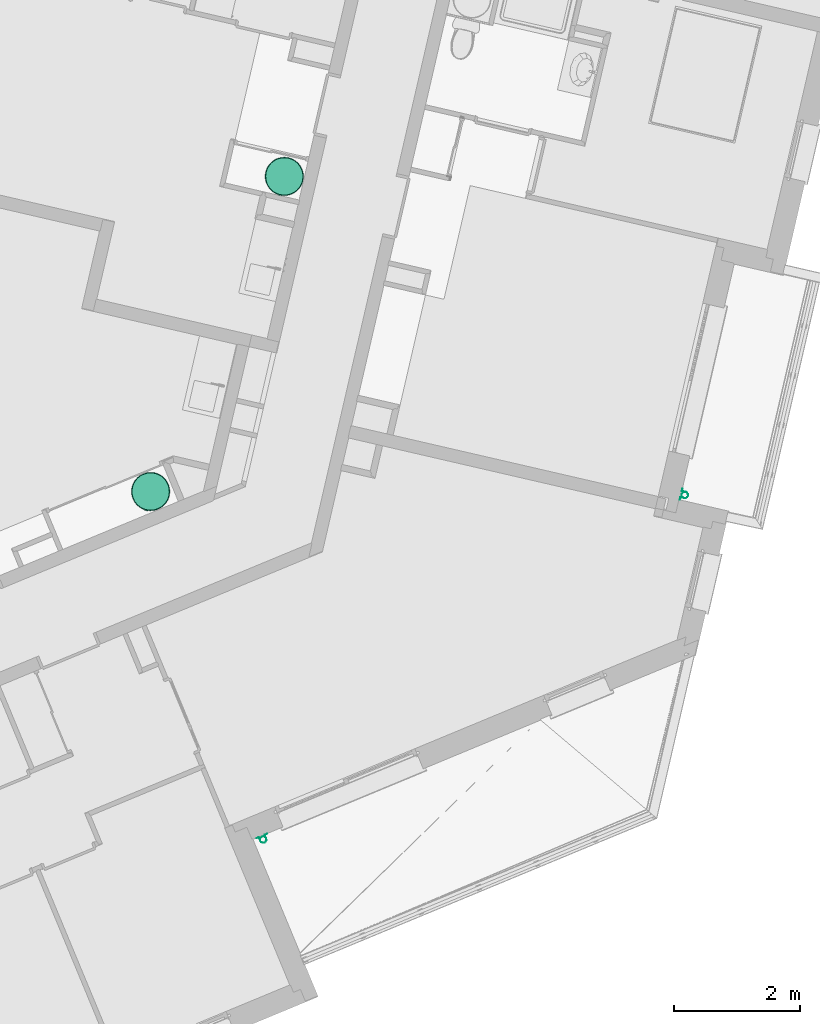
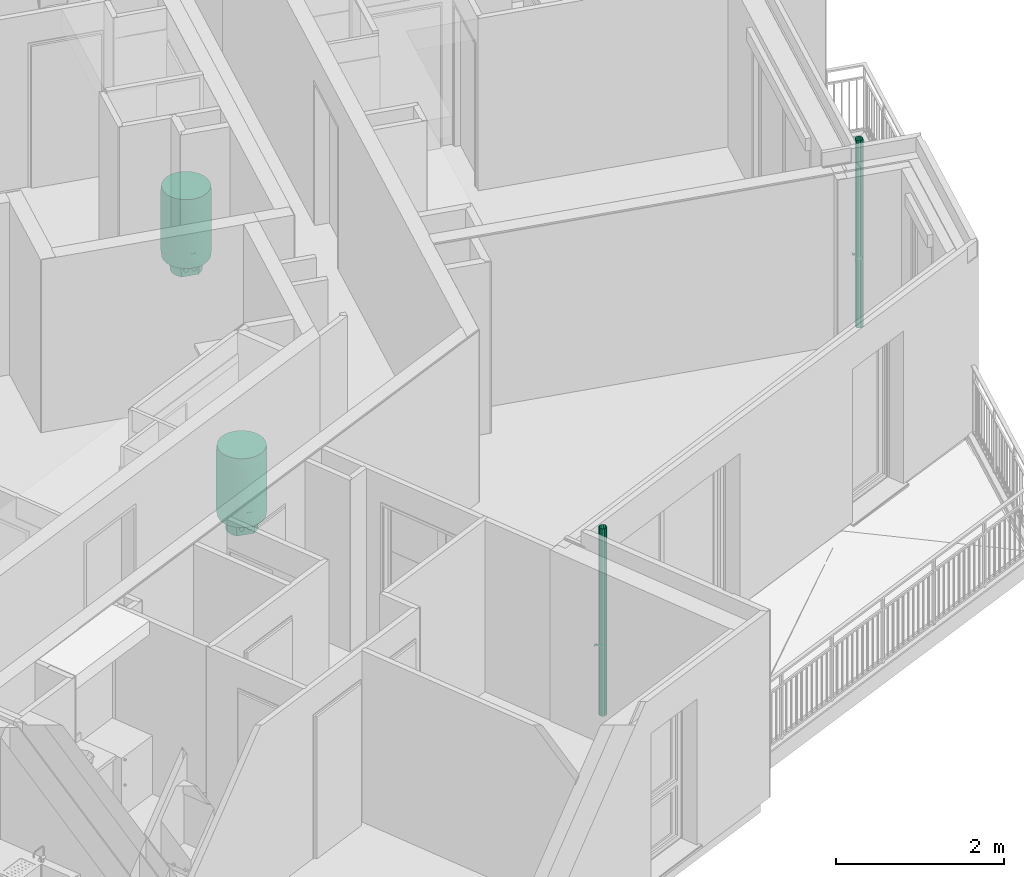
# One storey, part 72 of 90: 2 energy conversion devices, 2 flow terminals.
"""IFC2X3 building model written with IfcOpenShell, lengths in metres."""

import ifcopenshell
import ifcopenshell.guid

model = None  # the IFC model being written
_history = None  # IfcOwnerHistory: only IFC2X3 demands one
_inside = {}  # id of a spatial element -> (the spatial element, [elements in it])
_under = {}  # id of a project, library or spatial element -> (it, [spatial elements below it])
_declared = {}  # id of a project -> (the project, [libraries it declares])
_typed = {}  # id of a type object -> (the type object, [elements of that type])
_made_of = {}  # id of a material, layer set ... -> (it, [elements and type objects made of it])


def new_model(schema):
    """Start an empty IFC model of exactly this schema.

    Asked for "IFC4X3", IfcOpenShell would pick the latest addendum, in which some entities
    have other attributes; the version numbers below select the first issue.
    IFC2X3 requires an IfcOwnerHistory on every rooted entity: one is made here for all.
    """
    global model, _history
    if schema == "IFC4X3":
        model = ifcopenshell.file(schema_version=(4, 3, 0, 0))
    else:
        model = ifcopenshell.file(schema=schema)
    _inside.clear()
    _under.clear()
    _declared.clear()
    _typed.clear()
    _made_of.clear()
    _history = None
    if model.schema == "IFC2X3":
        org = make("IfcOrganization", Name="unknown")
        user = make(
            "IfcPersonAndOrganization",
            ThePerson=make("IfcPerson", FamilyName="unknown"),
            TheOrganization=org,
        )
        app = make(
            "IfcApplication",
            ApplicationDeveloper=org,
            Version="unknown",
            ApplicationFullName="unknown",
            ApplicationIdentifier="unknown",
        )
        _history = make(
            "IfcOwnerHistory",
            OwningUser=user,
            OwningApplication=app,
            ChangeAction="ADDED",
            CreationDate=0,
        )
    return model


def make(cls, **values):
    """One entity of the class cls with the attributes given. An attribute that is None is left unset."""
    return model.create_entity(
        cls, **{name: value for name, value in values.items() if value is not None}
    )


def entity(cls, *values):
    """Any entity or typed value of the class cls, its attributes in the order of the schema. None: left unset."""
    e = model.create_entity(cls)
    for i, value in enumerate(values):
        if value is not None:
            e[i] = value
    return e


def rooted(cls, **values):
    """An entity with a GlobalId (a new one), such as an element, a storey or a relation."""
    return make(cls, GlobalId=ifcopenshell.guid.new(), OwnerHistory=_history, **values)


def si_unit(unit_type, name, prefix=None):
    """IfcSIUnit, for example si_unit("LENGTHUNIT", "METRE", prefix="MILLI")."""
    return make("IfcSIUnit", UnitType=unit_type, Prefix=prefix, Name=name)


def converted_unit(unit_type, name, factor, base, dimensions=None, offset=None):
    """IfcConversionBasedUnit, such as the inch: factor (a typed value) times the base unit."""
    return make(
        "IfcConversionBasedUnit"
        if offset is None
        else "IfcConversionBasedUnitWithOffset",
        ConversionOffset=offset,
        Dimensions=None
        if dimensions is None
        else entity("IfcDimensionalExponents", *dimensions),
        UnitType=unit_type,
        Name=name,
        ConversionFactor=make(
            "IfcMeasureWithUnit", ValueComponent=factor, UnitComponent=base
        ),
    )


def derived_unit(unit_type, elements):
    """IfcDerivedUnit: a product of units, each with its exponent."""
    return make(
        "IfcDerivedUnit",
        Elements=[
            make("IfcDerivedUnitElement", Unit=unit, Exponent=power)
            for unit, power in elements
        ],
        UnitType=unit_type,
    )


def money_unit(currency):
    """IfcMonetaryUnit."""
    return make("IfcMonetaryUnit", Currency=currency)


def assignment(units):
    """IfcUnitAssignment: the units of a project."""
    return None if units is None else make("IfcUnitAssignment", Units=units)


def point(xyz):
    """IfcCartesianPoint."""
    return None if xyz is None else make("IfcCartesianPoint", Coordinates=xyz)


def direction(xyz):
    """IfcDirection."""
    return None if xyz is None else make("IfcDirection", DirectionRatios=xyz)


def frame(location, z_axis=None, x_axis=None):
    """IfcAxis2Placement3D, a coordinate frame: its origin and axes. An axis left out is left unset."""
    return make(
        "IfcAxis2Placement3D",
        Location=point(location),
        Axis=direction(z_axis),
        RefDirection=direction(x_axis),
    )


def origin_with_axes():
    """The frame at (0, 0, 0) with the z axis (0, 0, 1) and the x axis (1, 0, 0) written out."""
    return frame((0.0, 0.0, 0.0), z_axis=(0.0, 0.0, 1.0), x_axis=(1.0, 0.0, 0.0))


def place(relative_to, where):
    """IfcLocalPlacement: puts the frame where relative to a parent placement (None: the world)."""
    return make(
        "IfcLocalPlacement", PlacementRelTo=relative_to, RelativePlacement=where
    )


def context(
    kind, dimensions, precision=None, world=None, true_north=None, identifier=None
):
    """IfcGeometricRepresentationContext, for example the 3D "Model" context."""
    return make(
        "IfcGeometricRepresentationContext",
        ContextIdentifier=identifier,
        ContextType=kind,
        CoordinateSpaceDimension=dimensions,
        Precision=precision,
        WorldCoordinateSystem=world,
        TrueNorth=true_north,
    )


def subcontext(parent, identifier, kind, view, scale=None):
    """IfcGeometricRepresentationSubContext, for example "Body" below "Model"."""
    return make(
        "IfcGeometricRepresentationSubContext",
        ContextIdentifier=identifier,
        ContextType=kind,
        ParentContext=parent,
        TargetScale=scale,
        TargetView=view,
    )


def project(units=None, contexts=None):
    """IfcProject with its units and contexts."""
    return rooted(
        "IfcProject",
        Name="project",
        RepresentationContexts=contexts,
        UnitsInContext=assignment(units),
    )


def spatial(cls, under=None, at=None, **own):
    """A site, building, storey or space (cls), placed at a placement, below another one or the project."""
    s = rooted(cls, ObjectPlacement=at, **own)
    if under is not None:
        _under.setdefault(under.id(), (under, []))[1].append(s)
    return s


def faces_of(points, faces, orient=None, outer=None):
    """IfcFace entities. A face is a list of loops; a loop is a list of indices into points, from 0.

    orient and outer hold one flag for each loop. By default every Orientation is true, the
    first loop of a face is its IfcFaceOuterBound and the others are IfcFaceBound.
    """
    made = []
    for i, loops in enumerate(faces):
        bounds = []
        for j, loop in enumerate(loops):
            is_outer = j == 0 if outer is None else outer[i][j]
            bounds.append(
                make(
                    "IfcFaceOuterBound" if is_outer else "IfcFaceBound",
                    Bound=make("IfcPolyLoop", Polygon=[points[k] for k in loop]),
                    Orientation=True if orient is None else orient[i][j],
                )
            )
        made.append(make("IfcFace", Bounds=bounds))
    return made


def open_shell(faces, orient=None, outer=None):
    """The faces of one IfcOpenShell. surface_model builds it on its shared points."""
    return ("IfcOpenShell", faces, orient, outer)


def faceted_brep(points, faces, orient=None, outer=None, voids=None):
    """IfcFacetedBrep: a solid bounded by flat faces; with voids (closed shells), ...WithVoids."""
    shared = [point(p) for p in points]
    hull = make("IfcClosedShell", CfsFaces=faces_of(shared, faces, orient, outer))
    if voids is None:
        return make("IfcFacetedBrep", Outer=hull)
    return make(
        "IfcFacetedBrepWithVoids",
        Outer=hull,
        Voids=[
            make(cls, CfsFaces=faces_of(shared, fs, o, b)) for cls, fs, o, b in voids
        ],
    )


def surface_model(cls, points, shells):
    """IfcFaceBasedSurfaceModel or IfcShellBasedSurfaceModel (cls): surfaces that need not close."""
    shared = [point(p) for p in points]
    made = [make(c, CfsFaces=faces_of(shared, fs, o, b)) for c, fs, o, b in shells]
    if cls == "IfcFaceBasedSurfaceModel":
        return make(cls, FbsmFaces=made)
    return make(cls, SbsmBoundary=made)


def shape(context_of_items, identifier, shape_type, items):
    """IfcShapeRepresentation: the items that make up one representation, for example the "Body"."""
    return make(
        "IfcShapeRepresentation",
        ContextOfItems=context_of_items,
        RepresentationIdentifier=identifier,
        RepresentationType=shape_type,
        Items=items,
    )


def source(mapping_origin, context_of_items, identifier, shape_type, items):
    """IfcRepresentationMap: a shape defined once, which mapped items show again and again."""
    return make(
        "IfcRepresentationMap",
        MappingOrigin=mapping_origin,
        MappedRepresentation=shape(context_of_items, identifier, shape_type, items),
    )


def transform(
    local_origin,
    x_axis=None,
    y_axis=None,
    z_axis=None,
    scale=None,
    scale2=None,
    scale3=None,
    uniform=True,
):
    """IfcCartesianTransformationOperator3D, or its non-uniform kind. x_axis, y_axis, z_axis: its Axis1, 2, 3."""
    if uniform:
        return make(
            "IfcCartesianTransformationOperator3D",
            Axis1=direction(x_axis),
            Axis2=direction(y_axis),
            LocalOrigin=point(local_origin),
            Scale=scale,
            Axis3=direction(z_axis),
        )
    return make(
        "IfcCartesianTransformationOperator3DnonUniform",
        Axis1=direction(x_axis),
        Axis2=direction(y_axis),
        LocalOrigin=point(local_origin),
        Scale=scale,
        Axis3=direction(z_axis),
        Scale2=scale2,
        Scale3=scale3,
    )


def mapped(mapping_source, mapping_target):
    """IfcMappedItem: shows the shape of a source again, moved by a transform."""
    return make(
        "IfcMappedItem", MappingSource=mapping_source, MappingTarget=mapping_target
    )


def made_of(thing, what):
    """Note that an element or type object is made of a material, layer set ...; save() writes the relation."""
    if what is not None:
        _made_of.setdefault(what.id(), (what, []))[1].append(thing)
    return thing


def type_object(cls, material=None, **own):
    """A type object (cls), such as IfcWallType, which elements share."""
    return made_of(rooted(cls, **own), material)


def element(
    cls,
    number,
    at=None,
    inside=None,
    cuts=None,
    type_object=None,
    material=None,
    context=None,
    identifier="Body",
    shape_type=None,
    held_by="IfcProductDefinitionShape",
    body=None,
    shapes=None,
    **own,
):
    """One element of the class cls, such as IfcWall. Its Tag is "e" and its number.

    at: its placement. inside: the storey or other place that contains it. cuts: it is an
    opening in that element (IfcRelVoidsElement). A single representation is given by context,
    identifier, shape_type and body (its items); several are given by shapes. held_by: the class
    of the entity that holds the representations. save() writes the other relations.
    """
    e = rooted(cls, Tag="e%d" % number, ObjectPlacement=at, **own)
    if body is not None:
        shapes = [shape(context, identifier, shape_type, body)]
    if shapes is not None:
        e.Representation = make(held_by, Representations=shapes)
    if inside is not None:
        _inside.setdefault(inside.id(), (inside, []))[1].append(e)
    if cuts is not None:
        rooted(
            "IfcRelVoidsElement", RelatingBuildingElement=cuts, RelatedOpeningElement=e
        )
    if type_object is not None:
        _typed.setdefault(type_object.id(), (type_object, []))[1].append(e)
    return made_of(e, material)


def aggregate(whole, parts):
    """IfcRelAggregates: a whole, such as a stair, and the parts it consists of."""
    return rooted("IfcRelAggregates", RelatingObject=whole, RelatedObjects=parts)


def save(model, path):
    """Write the relations noted so far, then the file.

    IfcRelAggregates (storeys below a building ...), IfcRelContainedInSpatialStructure (elements
    in a storey), IfcRelDefinesByType, IfcRelAssociatesMaterial and IfcRelDeclares: one each for
    every whole, place, type object, material and project.
    """
    for whole, parts in _under.values():
        aggregate(whole, parts)
    for where, things in _inside.values():
        rooted(
            "IfcRelContainedInSpatialStructure",
            RelatedElements=things,
            RelatingStructure=where,
        )
    for kind, things in _typed.values():
        rooted("IfcRelDefinesByType", RelatedObjects=things, RelatingType=kind)
    for what, things in _made_of.values():
        rooted("IfcRelAssociatesMaterial", RelatedObjects=things, RelatingMaterial=what)
    for by, libraries in _declared.values():
        rooted("IfcRelDeclares", RelatingContext=by, RelatedDefinitions=libraries)
    model.write(path)


model = new_model("IFC2X3")

# Units and contexts
model_context = context("Model", 3, precision=1e-05, world=origin_with_axes(), true_north=direction((0.0, 1.0)))
body_context = subcontext(model_context, "Body", "Model", "MODEL_VIEW")
ifc_project = project(units=[si_unit("LENGTHUNIT", "METRE"), si_unit("AREAUNIT", "SQUARE_METRE"), si_unit("VOLUMEUNIT", "CUBIC_METRE"), converted_unit("PLANEANGLEUNIT", "DEGREE", entity("IfcPlaneAngleMeasure", 0.0174532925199), si_unit("PLANEANGLEUNIT", "RADIAN"), dimensions=[0, 0, 0, 0, 0, 0, 0]), si_unit("SOLIDANGLEUNIT", "STERADIAN"), money_unit("EUR"), converted_unit("TIMEUNIT", "Year", entity("IfcTimeMeasure", 31556926.0), si_unit("TIMEUNIT", "SECOND"), dimensions=[0, 0, 1, 0, 0, 0, 0]), si_unit("MASSUNIT", "GRAM", prefix="KILO"), si_unit("THERMODYNAMICTEMPERATUREUNIT", "DEGREE_CELSIUS"), si_unit("LUMINOUSINTENSITYUNIT", "LUMEN"), si_unit("ENERGYUNIT", "JOULE", prefix="MEGA"), derived_unit("THERMALCONDUCTANCEUNIT", [(si_unit("POWERUNIT", "WATT"), 1), (si_unit("LENGTHUNIT", "METRE"), -1), (si_unit("THERMODYNAMICTEMPERATUREUNIT", "KELVIN"), -1)]), derived_unit("SPECIFICHEATCAPACITYUNIT", [(si_unit("ENERGYUNIT", "JOULE"), 1), (si_unit("MASSUNIT", "GRAM", prefix="KILO"), -1), (si_unit("THERMODYNAMICTEMPERATUREUNIT", "KELVIN"), -1)]), derived_unit("MASSDENSITYUNIT", [(si_unit("MASSUNIT", "GRAM", prefix="KILO"), 1), (si_unit("VOLUMEUNIT", "CUBIC_METRE"), -1)])], contexts=[model_context])

# Site, building, storey
site_placement = place(None, origin_with_axes())
site = spatial("IfcSite", under=ifc_project, at=site_placement, Name="Site", CompositionType="ELEMENT")
building_placement = place(site_placement, origin_with_axes())
building = spatial("IfcBuilding", under=site, at=building_placement, Name="Bâtiment", CompositionType="ELEMENT")
storey_placement = place(building_placement, frame((0.0, 0.0, 2.72), z_axis=(0.0, 0.0, 1.0), x_axis=(1.0, 0.0, 0.0)))
storey = spatial("IfcBuildingStorey", under=building, at=storey_placement, Name="R+1", CompositionType="ELEMENT", Elevation=2.72)

# Flow terminals
waste_terminal_type = type_object("IfcWasteTerminalType", Name="Tuyau descente 23", PredefinedType="GULLYTRAP")
shared_shape_1 = source(origin_with_axes(), body_context, "Body", "SurfaceModel", [
    surface_model("IfcShellBasedSurfaceModel", [(0.05, -0.0125, 2.7222918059), (0.0433012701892, -0.0375, 2.7222918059), (0.0433012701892, -0.0375, 0.0), (0.05, -0.0125, 0.0), (0.025, -0.0558012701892, 2.7222918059), (0.025, -0.0558012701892, 0.0), (0.0433012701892, 0.0125, 2.7222918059), (0.0433012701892, 0.0125, 0.0), (0.0, -0.0625, 2.7222918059), (0.0, -0.0625, 0.0), (0.025, 0.0308012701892, 2.7222918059), (0.025, 0.0308012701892, 0.0), (-0.025, -0.0558012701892, 2.7222918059), (-0.025, -0.0558012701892, 0.0), (0.0, 0.0375, 2.7222918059), (0.0, 0.0375, 0.0), (-0.0433012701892, -0.0375, 2.7222918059), (-0.0433012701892, -0.0375, 0.0), (-0.025, 0.0308012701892, 2.7222918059), (-0.025, 0.0308012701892, 0.0), (-0.05, -0.0125, 2.7222918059), (-0.05, -0.0125, 0.0), (-0.0433012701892, 0.0125, 2.7222918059), (-0.0433012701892, 0.0125, 0.0)], [open_shell([[[0, 1, 2, 3]], [[1, 4, 5, 2]], [[6, 0, 3, 7]], [[4, 8, 9, 5]], [[10, 6, 7, 11]], [[8, 12, 13, 9]], [[14, 10, 11, 15]], [[12, 16, 17, 13]], [[18, 14, 15, 19]], [[16, 20, 21, 17]], [[22, 18, 19, 23]], [[20, 22, 23, 21]]])]),
    faceted_brep([(-0.09, 0.0479, 1.0), (-0.052, 0.0479, 1.0), (-0.052, 0.0479, 1.03), (-0.09, 0.0479, 1.03), (-0.09, 0.0499, 1.0), (-0.0502, 0.0499, 1.0), (-0.0502, -0.0126, 1.0), (-0.04347447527, -0.0377, 1.0), (-0.0251, -0.05607447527, 1.0), (0.0, -0.0628, 1.0), (0.0251, -0.05607447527, 1.0), (0.04347447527, -0.0377, 1.0), (0.0502, -0.0126, 1.0), (0.0502, 0.0499, 1.0), (0.09, 0.0499, 1.0), (0.09, 0.0479, 1.0), (0.052, 0.0479, 1.0), (0.052, -0.0126, 1.0), (0.0450333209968, -0.0386, 1.0), (0.026, -0.0576333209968, 1.0), (0.0, -0.0646, 1.0), (-0.026, -0.0576333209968, 1.0), (-0.0450333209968, -0.0386, 1.0), (-0.052, -0.0126, 1.0), (-0.052, -0.0126, 1.03), (-0.0450333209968, -0.0386, 1.03), (-0.026, -0.0576333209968, 1.03), (0.0, -0.0646, 1.03), (0.026, -0.0576333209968, 1.03), (0.0450333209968, -0.0386, 1.03), (0.052, -0.0126, 1.03), (0.052, 0.0479, 1.03), (0.09, 0.0479, 1.03), (0.09, 0.0499, 1.03), (0.0502, 0.0499, 1.03), (0.0502, -0.0126, 1.03), (0.04347447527, -0.0377, 1.03), (0.0251, -0.05607447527, 1.03), (0.0, -0.0628, 1.03), (-0.0251, -0.05607447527, 1.03), (-0.04347447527, -0.0377, 1.03), (-0.0502, -0.0126, 1.03), (-0.0502, 0.0499, 1.03), (-0.09, 0.0499, 1.03)], [[[0, 1, 2, 3]], [[0, 4, 5, 6, 7, 8, 9, 10, 11, 12, 13, 14, 15, 16, 17, 18, 19, 20, 21, 22, 23, 1]], [[1, 23, 24, 2]], [[3, 2, 24, 25, 26, 27, 28, 29, 30, 31, 32, 33, 34, 35, 36, 37, 38, 39, 40, 41, 42, 43]], [[4, 0, 3, 43]], [[5, 4, 43, 42]], [[6, 5, 42, 41]], [[7, 6, 41, 40]], [[8, 7, 40, 39]], [[9, 8, 39, 38]], [[10, 9, 38, 37]], [[11, 10, 37, 36]], [[12, 11, 36, 35]], [[13, 12, 35, 34]], [[14, 13, 34, 33]], [[15, 14, 33, 32]], [[16, 15, 32, 31]], [[17, 16, 31, 30]], [[18, 17, 30, 29]], [[19, 18, 29, 28]], [[20, 19, 28, 27]], [[21, 20, 27, 26]], [[22, 21, 26, 25]], [[23, 22, 25, 24]]]),
])
for number, where, z_axis, x_axis, name in (
    (1, (-7.80740943, -17.577922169, 0.0), (0.0, 0.0, 1.0), (0.224876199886, 0.97438734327, 0.0), "MOB-006"),
    (2, (-14.4677643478, -23.0167914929, 0.0), (0.0, 0.0, 1.0), (0.923701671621, 0.383112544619, 0.0), "MOB-006"),
):
    element("IfcFlowTerminal", number, at=place(storey_placement, frame(where, z_axis=z_axis, x_axis=x_axis)), inside=storey, type_object=waste_terminal_type, Name=name, context=body_context, shape_type="MappedRepresentation", body=[
        mapped(shared_shape_1, transform((0.0, 0.0, 0.0))),
    ])

# Energy conversion devices
heat_exchanger_type = type_object("IfcHeatExchangerType", Name="Chauffe-eau électrique 23", PredefinedType="SHELLANDTUBE")
shared_shape_2 = source(origin_with_axes(), body_context, "Body", "Brep", [
    faceted_brep([(-0.0254166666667, -0.310083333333, 0.4), (-0.0254166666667, -0.305, 0.4), (0.0254166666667, -0.305, 0.4), (0.0254166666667, -0.310083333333, 0.4), (-0.0254166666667, -0.310083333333, 0.42), (-0.0254166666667, -0.305, 0.42), (0.0254166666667, -0.305, 0.42), (0.0254166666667, -0.310083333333, 0.42)], [[[0, 1, 2, 3]], [[0, 4, 5, 1]], [[1, 5, 6, 2]], [[2, 6, 7, 3]], [[3, 7, 4, 0]], [[7, 6, 5, 4]]]),
    faceted_brep([(0.0226550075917, -0.162666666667, 0.0883281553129), (0.0203333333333, -0.162666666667, 0.1), (0.0226550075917, -0.162666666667, 0.111671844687), (0.0292665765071, -0.162666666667, 0.121566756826), (0.0391614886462, -0.162666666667, 0.128178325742), (0.0508333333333, -0.162666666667, 0.1305), (0.0625051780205, -0.162666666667, 0.128178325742), (0.0724000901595, -0.162666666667, 0.121566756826), (0.0790116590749, -0.162666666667, 0.111671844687), (0.0813333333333, -0.162666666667, 0.1), (0.0790116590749, -0.162666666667, 0.0883281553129), (0.0724000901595, -0.162666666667, 0.0784332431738), (0.0625051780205, -0.162666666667, 0.0718216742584), (0.0508333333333, -0.162666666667, 0.0695), (0.0391614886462, -0.162666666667, 0.0718216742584), (0.0292665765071, -0.162666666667, 0.0784332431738), (0.0226550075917, -0.177916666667, 0.0883281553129), (0.0203333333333, -0.177916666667, 0.1), (0.0226550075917, -0.177916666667, 0.111671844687), (0.0292665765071, -0.177916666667, 0.121566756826), (0.0391614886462, -0.177916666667, 0.128178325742), (0.0508333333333, -0.177916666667, 0.1305), (0.0625051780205, -0.177916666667, 0.128178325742), (0.0724000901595, -0.177916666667, 0.121566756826), (0.0790116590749, -0.177916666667, 0.111671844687), (0.0813333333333, -0.177916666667, 0.1), (0.0790116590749, -0.177916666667, 0.0883281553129), (0.0724000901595, -0.177916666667, 0.0784332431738), (0.0625051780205, -0.177916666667, 0.0718216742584), (0.0508333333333, -0.177916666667, 0.0695), (0.0391614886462, -0.177916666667, 0.0718216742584), (0.0292665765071, -0.177916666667, 0.0784332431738)], [[[0, 1, 2, 3, 4, 5, 6, 7, 8, 9, 10, 11, 12, 13, 14, 15]], [[0, 16, 17, 1]], [[1, 17, 18, 2]], [[2, 18, 19, 3]], [[3, 19, 20, 4]], [[4, 20, 21, 5]], [[5, 21, 22, 6]], [[6, 22, 23, 7]], [[7, 23, 24, 8]], [[8, 24, 25, 9]], [[9, 25, 26, 10]], [[10, 26, 27, 11]], [[11, 27, 28, 12]], [[12, 28, 29, 13]], [[13, 29, 30, 14]], [[14, 30, 31, 15]], [[15, 31, 16, 0]], [[16, 31, 30, 29, 28, 27, 26, 25, 24, 23, 22, 21, 20, 19, 18, 17]]]),
    faceted_brep([(-0.0790116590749, -0.162666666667, 0.0883281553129), (-0.0813333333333, -0.162666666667, 0.1), (-0.0790116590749, -0.162666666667, 0.111671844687), (-0.0724000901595, -0.162666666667, 0.121566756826), (-0.0625051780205, -0.162666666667, 0.128178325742), (-0.0508333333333, -0.162666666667, 0.1305), (-0.0391614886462, -0.162666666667, 0.128178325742), (-0.0292665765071, -0.162666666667, 0.121566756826), (-0.0226550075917, -0.162666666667, 0.111671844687), (-0.0203333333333, -0.162666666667, 0.1), (-0.0226550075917, -0.162666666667, 0.0883281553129), (-0.0292665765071, -0.162666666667, 0.0784332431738), (-0.0391614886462, -0.162666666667, 0.0718216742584), (-0.0508333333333, -0.162666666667, 0.0695), (-0.0625051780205, -0.162666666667, 0.0718216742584), (-0.0724000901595, -0.162666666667, 0.0784332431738), (-0.0790116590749, -0.177916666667, 0.0883281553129), (-0.0813333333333, -0.177916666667, 0.1), (-0.0790116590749, -0.177916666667, 0.111671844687), (-0.0724000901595, -0.177916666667, 0.121566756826), (-0.0625051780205, -0.177916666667, 0.128178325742), (-0.0508333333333, -0.177916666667, 0.1305), (-0.0391614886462, -0.177916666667, 0.128178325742), (-0.0292665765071, -0.177916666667, 0.121566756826), (-0.0226550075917, -0.177916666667, 0.111671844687), (-0.0203333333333, -0.177916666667, 0.1), (-0.0226550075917, -0.177916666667, 0.0883281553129), (-0.0292665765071, -0.177916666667, 0.0784332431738), (-0.0391614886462, -0.177916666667, 0.0718216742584), (-0.0508333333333, -0.177916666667, 0.0695), (-0.0625051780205, -0.177916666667, 0.0718216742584), (-0.0724000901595, -0.177916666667, 0.0784332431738)], [[[0, 1, 2, 3, 4, 5, 6, 7, 8, 9, 10, 11, 12, 13, 14, 15]], [[0, 16, 17, 1]], [[1, 17, 18, 2]], [[2, 18, 19, 3]], [[3, 19, 20, 4]], [[4, 20, 21, 5]], [[5, 21, 22, 6]], [[6, 22, 23, 7]], [[7, 23, 24, 8]], [[8, 24, 25, 9]], [[9, 25, 26, 10]], [[10, 26, 27, 11]], [[11, 27, 28, 12]], [[12, 28, 29, 13]], [[13, 29, 30, 14]], [[14, 30, 31, 15]], [[15, 31, 16, 0]], [[16, 31, 30, 29, 28, 27, 26, 25, 24, 23, 22, 21, 20, 19, 18, 17]]]),
    faceted_brep([(-0.189455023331, -0.0376849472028, 0.0), (-0.199426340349, -0.0396683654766, 0.2), (-0.203333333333, 0.0, 0.2), (-0.193166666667, 0.0, 0.0), (-0.178462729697, -0.0739216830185, 0.0), (-0.187855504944, -0.0778122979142, 0.2), (-0.169065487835, -0.112965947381, 0.2), (-0.143778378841, -0.143778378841, 0.2), (-0.120762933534, -0.162666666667, 0.2), (0.120762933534, -0.162666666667, 0.2), (0.143778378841, -0.143778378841, 0.2), (0.169065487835, -0.112965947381, 0.2), (0.187855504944, -0.0778122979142, 0.2), (0.199426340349, -0.0396683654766, 0.2), (0.203333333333, 0.0, 0.2), (0.199426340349, 0.0396683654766, 0.2), (0.187855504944, 0.0778122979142, 0.2), (0.169065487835, 0.112965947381, 0.2), (0.143778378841, 0.143778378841, 0.2), (0.112965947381, 0.169065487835, 0.2), (0.0778122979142, 0.187855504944, 0.2), (0.0396683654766, 0.199426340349, 0.2), (0.0, 0.203333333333, 0.2), (-0.0396683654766, 0.199426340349, 0.2), (-0.0778122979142, 0.187855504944, 0.2), (-0.112965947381, 0.169065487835, 0.2), (-0.143778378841, 0.143778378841, 0.2), (-0.169065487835, 0.112965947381, 0.2), (-0.187855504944, 0.0778122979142, 0.2), (-0.199426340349, 0.0396683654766, 0.2), (-0.189455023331, 0.0376849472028, 0.0), (-0.178462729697, 0.0739216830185, 0.0), (-0.160612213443, 0.107317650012, 0.0), (-0.136589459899, 0.136589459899, 0.0), (-0.107317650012, 0.160612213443, 0.0), (-0.0739216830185, 0.178462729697, 0.0), (-0.0376849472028, 0.189455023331, 0.0), (0.0, 0.193166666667, 0.0), (0.0376849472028, 0.189455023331, 0.0), (0.0739216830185, 0.178462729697, 0.0), (0.107317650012, 0.160612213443, 0.0), (0.136589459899, 0.136589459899, 0.0), (0.160612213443, 0.107317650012, 0.0), (0.178462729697, 0.0739216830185, 0.0), (0.189455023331, 0.0376849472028, 0.0), (0.193166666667, 0.0, 0.0), (0.189455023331, -0.0376849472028, 0.0), (0.178462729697, -0.0739216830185, 0.0), (0.160612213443, -0.107317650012, 0.0), (0.136589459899, -0.136589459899, 0.0), (0.107317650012, -0.160612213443, 0.0), (0.103474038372, -0.162666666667, 0.0), (-0.103474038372, -0.162666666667, 0.0), (-0.107317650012, -0.160612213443, 0.0), (-0.136589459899, -0.136589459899, 0.0), (-0.160612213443, -0.107317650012, 0.0), (-0.108690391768, -0.162666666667, 0.0486072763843), (0.108690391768, -0.162666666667, 0.0486072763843)], [[[0, 1, 2, 3]], [[4, 5, 1, 0]], [[1, 5, 6, 7, 8, 9, 10, 11, 12, 13, 14, 15, 16, 17, 18, 19, 20, 21, 22, 23, 24, 25, 26, 27, 28, 29, 2]], [[3, 2, 29, 30]], [[0, 3, 30, 31, 32, 33, 34, 35, 36, 37, 38, 39, 40, 41, 42, 43, 44, 45, 46, 47, 48, 49, 50, 51, 52, 53, 54, 55, 4]], [[55, 6, 5, 4]], [[54, 7, 6, 55]], [[53, 56, 8, 7, 54]], [[51, 57, 9, 8, 56, 52]], [[49, 10, 9, 57, 50]], [[48, 11, 10, 49]], [[47, 12, 11, 48]], [[46, 13, 12, 47]], [[45, 14, 13, 46]], [[44, 15, 14, 45]], [[43, 16, 15, 44]], [[42, 17, 16, 43]], [[41, 18, 17, 42]], [[40, 19, 18, 41]], [[39, 20, 19, 40]], [[38, 21, 20, 39]], [[37, 22, 21, 38]], [[36, 23, 22, 37]], [[35, 24, 23, 36]], [[34, 25, 24, 35]], [[33, 26, 25, 34]], [[32, 27, 26, 33]], [[31, 28, 27, 32]], [[30, 29, 28, 31]], [[50, 57, 51]], [[52, 56, 53]]]),
    faceted_brep([(-0.289168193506, -0.0575191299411, 0.2), (-0.299139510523, -0.0595025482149, 0.3), (-0.305, 0.0, 0.3), (-0.294833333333, 0.0, 0.2), (-0.272390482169, -0.112827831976, 0.2), (-0.281783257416, -0.116718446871, 0.3), (-0.253598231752, -0.169448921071, 0.3), (-0.215667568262, -0.215667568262, 0.3), (-0.169448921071, -0.253598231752, 0.3), (-0.116718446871, -0.281783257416, 0.3), (-0.0595025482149, -0.299139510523, 0.3), (0.0, -0.305, 0.3), (0.0595025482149, -0.299139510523, 0.3), (0.116718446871, -0.281783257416, 0.3), (0.169448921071, -0.253598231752, 0.3), (0.215667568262, -0.215667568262, 0.3), (0.253598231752, -0.169448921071, 0.3), (0.281783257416, -0.116718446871, 0.3), (0.299139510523, -0.0595025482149, 0.3), (0.305, 0.0, 0.3), (0.299139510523, 0.0595025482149, 0.3), (0.281783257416, 0.116718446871, 0.3), (0.253598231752, 0.169448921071, 0.3), (0.215667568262, 0.215667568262, 0.3), (0.169448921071, 0.253598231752, 0.3), (0.116718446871, 0.281783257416, 0.3), (0.0595025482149, 0.299139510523, 0.3), (0.0, 0.305, 0.3), (-0.0595025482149, 0.299139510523, 0.3), (-0.116718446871, 0.281783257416, 0.3), (-0.169448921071, 0.253598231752, 0.3), (-0.215667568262, 0.215667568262, 0.3), (-0.253598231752, 0.169448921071, 0.3), (-0.281783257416, 0.116718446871, 0.3), (-0.299139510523, 0.0595025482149, 0.3), (-0.289168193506, 0.0575191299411, 0.2), (-0.272390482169, 0.112827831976, 0.2), (-0.245144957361, 0.163800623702, 0.2), (-0.20847864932, 0.20847864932, 0.2), (-0.163800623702, 0.245144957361, 0.2), (-0.112827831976, 0.272390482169, 0.2), (-0.0575191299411, 0.289168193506, 0.2), (0.0, 0.294833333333, 0.2), (0.0575191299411, 0.289168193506, 0.2), (0.112827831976, 0.272390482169, 0.2), (0.163800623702, 0.245144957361, 0.2), (0.20847864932, 0.20847864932, 0.2), (0.245144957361, 0.163800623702, 0.2), (0.272390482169, 0.112827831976, 0.2), (0.289168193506, 0.0575191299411, 0.2), (0.294833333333, 0.0, 0.2), (0.289168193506, -0.0575191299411, 0.2), (0.272390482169, -0.112827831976, 0.2), (0.245144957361, -0.163800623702, 0.2), (0.20847864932, -0.20847864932, 0.2), (0.163800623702, -0.245144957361, 0.2), (0.112827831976, -0.272390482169, 0.2), (0.0575191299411, -0.289168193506, 0.2), (0.0, -0.294833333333, 0.2), (-0.0575191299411, -0.289168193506, 0.2), (-0.112827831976, -0.272390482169, 0.2), (-0.163800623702, -0.245144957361, 0.2), (-0.20847864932, -0.20847864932, 0.2), (-0.245144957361, -0.163800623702, 0.2)], [[[0, 1, 2, 3]], [[4, 5, 1, 0]], [[1, 5, 6, 7, 8, 9, 10, 11, 12, 13, 14, 15, 16, 17, 18, 19, 20, 21, 22, 23, 24, 25, 26, 27, 28, 29, 30, 31, 32, 33, 34, 2]], [[3, 2, 34, 35]], [[0, 3, 35, 36, 37, 38, 39, 40, 41, 42, 43, 44, 45, 46, 47, 48, 49, 50, 51, 52, 53, 54, 55, 56, 57, 58, 59, 60, 61, 62, 63, 4]], [[63, 6, 5, 4]], [[62, 7, 6, 63]], [[61, 8, 7, 62]], [[60, 9, 8, 61]], [[59, 10, 9, 60]], [[58, 11, 10, 59]], [[57, 12, 11, 58]], [[56, 13, 12, 57]], [[55, 14, 13, 56]], [[54, 15, 14, 55]], [[53, 16, 15, 54]], [[52, 17, 16, 53]], [[51, 18, 17, 52]], [[50, 19, 18, 51]], [[49, 20, 19, 50]], [[48, 21, 20, 49]], [[47, 22, 21, 48]], [[46, 23, 22, 47]], [[45, 24, 23, 46]], [[44, 25, 24, 45]], [[43, 26, 25, 44]], [[42, 27, 26, 43]], [[41, 28, 27, 42]], [[40, 29, 28, 41]], [[39, 30, 29, 40]], [[38, 31, 30, 39]], [[37, 32, 31, 38]], [[36, 33, 32, 37]], [[35, 34, 33, 36]]]),
    faceted_brep([(-0.299139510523, -0.0595025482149, 0.3), (-0.305, 0.0, 0.3), (-0.299139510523, 0.0595025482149, 0.3), (-0.281783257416, 0.116718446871, 0.3), (-0.253598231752, 0.169448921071, 0.3), (-0.215667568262, 0.215667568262, 0.3), (-0.169448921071, 0.253598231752, 0.3), (-0.116718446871, 0.281783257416, 0.3), (-0.0595025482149, 0.299139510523, 0.3), (0.0, 0.305, 0.3), (0.0595025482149, 0.299139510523, 0.3), (0.116718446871, 0.281783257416, 0.3), (0.169448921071, 0.253598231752, 0.3), (0.215667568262, 0.215667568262, 0.3), (0.253598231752, 0.169448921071, 0.3), (0.281783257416, 0.116718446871, 0.3), (0.299139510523, 0.0595025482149, 0.3), (0.305, 0.0, 0.3), (0.299139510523, -0.0595025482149, 0.3), (0.281783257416, -0.116718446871, 0.3), (0.253598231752, -0.169448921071, 0.3), (0.215667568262, -0.215667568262, 0.3), (0.169448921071, -0.253598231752, 0.3), (0.116718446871, -0.281783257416, 0.3), (0.0595025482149, -0.299139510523, 0.3), (0.0, -0.305, 0.3), (-0.0595025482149, -0.299139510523, 0.3), (-0.116718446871, -0.281783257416, 0.3), (-0.169448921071, -0.253598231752, 0.3), (-0.215667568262, -0.215667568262, 0.3), (-0.253598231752, -0.169448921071, 0.3), (-0.281783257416, -0.116718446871, 0.3), (-0.299139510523, -0.0595025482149, 1.1), (-0.305, 0.0, 1.1), (-0.299139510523, 0.0595025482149, 1.1), (-0.281783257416, 0.116718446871, 1.1), (-0.253598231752, 0.169448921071, 1.1), (-0.215667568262, 0.215667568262, 1.1), (-0.169448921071, 0.253598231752, 1.1), (-0.116718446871, 0.281783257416, 1.1), (-0.0595025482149, 0.299139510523, 1.1), (0.0, 0.305, 1.1), (0.0595025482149, 0.299139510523, 1.1), (0.116718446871, 0.281783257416, 1.1), (0.169448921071, 0.253598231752, 1.1), (0.215667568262, 0.215667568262, 1.1), (0.253598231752, 0.169448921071, 1.1), (0.281783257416, 0.116718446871, 1.1), (0.299139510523, 0.0595025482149, 1.1), (0.305, 0.0, 1.1), (0.299139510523, -0.0595025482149, 1.1), (0.281783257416, -0.116718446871, 1.1), (0.253598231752, -0.169448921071, 1.1), (0.215667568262, -0.215667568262, 1.1), (0.169448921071, -0.253598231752, 1.1), (0.116718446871, -0.281783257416, 1.1), (0.0595025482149, -0.299139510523, 1.1), (0.0, -0.305, 1.1), (-0.0595025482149, -0.299139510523, 1.1), (-0.116718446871, -0.281783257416, 1.1), (-0.169448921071, -0.253598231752, 1.1), (-0.215667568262, -0.215667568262, 1.1), (-0.253598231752, -0.169448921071, 1.1), (-0.281783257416, -0.116718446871, 1.1)], [[[0, 1, 2, 3, 4, 5, 6, 7, 8, 9, 10, 11, 12, 13, 14, 15, 16, 17, 18, 19, 20, 21, 22, 23, 24, 25, 26, 27, 28, 29, 30, 31]], [[0, 32, 33, 1]], [[1, 33, 34, 2]], [[2, 34, 35, 3]], [[3, 35, 36, 4]], [[4, 36, 37, 5]], [[5, 37, 38, 6]], [[6, 38, 39, 7]], [[7, 39, 40, 8]], [[8, 40, 41, 9]], [[9, 41, 42, 10]], [[10, 42, 43, 11]], [[11, 43, 44, 12]], [[12, 44, 45, 13]], [[13, 45, 46, 14]], [[14, 46, 47, 15]], [[15, 47, 48, 16]], [[16, 48, 49, 17]], [[17, 49, 50, 18]], [[18, 50, 51, 19]], [[19, 51, 52, 20]], [[20, 52, 53, 21]], [[21, 53, 54, 22]], [[22, 54, 55, 23]], [[23, 55, 56, 24]], [[24, 56, 57, 25]], [[25, 57, 58, 26]], [[26, 58, 59, 27]], [[27, 59, 60, 28]], [[28, 60, 61, 29]], [[29, 61, 62, 30]], [[30, 62, 63, 31]], [[31, 63, 32, 0]], [[32, 63, 62, 61, 60, 59, 58, 57, 56, 55, 54, 53, 52, 51, 50, 49, 48, 47, 46, 45, 44, 43, 42, 41, 40, 39, 38, 37, 36, 35, 34, 33]]]),
    faceted_brep([(-0.299139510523, -0.0595025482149, 1.1), (-0.289168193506, -0.0575191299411, 1.2), (-0.294833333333, 0.0, 1.2), (-0.305, 0.0, 1.1), (-0.281783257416, -0.116718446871, 1.1), (-0.272390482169, -0.112827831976, 1.2), (-0.245144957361, -0.163800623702, 1.2), (-0.20847864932, -0.20847864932, 1.2), (-0.163800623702, -0.245144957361, 1.2), (-0.112827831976, -0.272390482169, 1.2), (-0.0575191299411, -0.289168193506, 1.2), (0.0, -0.294833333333, 1.2), (0.0575191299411, -0.289168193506, 1.2), (0.112827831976, -0.272390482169, 1.2), (0.163800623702, -0.245144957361, 1.2), (0.20847864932, -0.20847864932, 1.2), (0.245144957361, -0.163800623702, 1.2), (0.272390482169, -0.112827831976, 1.2), (0.289168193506, -0.0575191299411, 1.2), (0.294833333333, 0.0, 1.2), (0.289168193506, 0.0575191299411, 1.2), (0.272390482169, 0.112827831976, 1.2), (0.245144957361, 0.163800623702, 1.2), (0.20847864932, 0.20847864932, 1.2), (0.163800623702, 0.245144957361, 1.2), (0.112827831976, 0.272390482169, 1.2), (0.0575191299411, 0.289168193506, 1.2), (0.0, 0.294833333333, 1.2), (-0.0575191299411, 0.289168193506, 1.2), (-0.112827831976, 0.272390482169, 1.2), (-0.163800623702, 0.245144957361, 1.2), (-0.20847864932, 0.20847864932, 1.2), (-0.245144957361, 0.163800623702, 1.2), (-0.272390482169, 0.112827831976, 1.2), (-0.289168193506, 0.0575191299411, 1.2), (-0.299139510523, 0.0595025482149, 1.1), (-0.281783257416, 0.116718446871, 1.1), (-0.253598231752, 0.169448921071, 1.1), (-0.215667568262, 0.215667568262, 1.1), (-0.169448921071, 0.253598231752, 1.1), (-0.116718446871, 0.281783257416, 1.1), (-0.0595025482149, 0.299139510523, 1.1), (0.0, 0.305, 1.1), (0.0595025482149, 0.299139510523, 1.1), (0.116718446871, 0.281783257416, 1.1), (0.169448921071, 0.253598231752, 1.1), (0.215667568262, 0.215667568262, 1.1), (0.253598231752, 0.169448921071, 1.1), (0.281783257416, 0.116718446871, 1.1), (0.299139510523, 0.0595025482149, 1.1), (0.305, 0.0, 1.1), (0.299139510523, -0.0595025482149, 1.1), (0.281783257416, -0.116718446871, 1.1), (0.253598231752, -0.169448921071, 1.1), (0.215667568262, -0.215667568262, 1.1), (0.169448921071, -0.253598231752, 1.1), (0.116718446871, -0.281783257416, 1.1), (0.0595025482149, -0.299139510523, 1.1), (0.0, -0.305, 1.1), (-0.0595025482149, -0.299139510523, 1.1), (-0.116718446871, -0.281783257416, 1.1), (-0.169448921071, -0.253598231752, 1.1), (-0.215667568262, -0.215667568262, 1.1), (-0.253598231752, -0.169448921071, 1.1)], [[[0, 1, 2, 3]], [[4, 5, 1, 0]], [[1, 5, 6, 7, 8, 9, 10, 11, 12, 13, 14, 15, 16, 17, 18, 19, 20, 21, 22, 23, 24, 25, 26, 27, 28, 29, 30, 31, 32, 33, 34, 2]], [[3, 2, 34, 35]], [[0, 3, 35, 36, 37, 38, 39, 40, 41, 42, 43, 44, 45, 46, 47, 48, 49, 50, 51, 52, 53, 54, 55, 56, 57, 58, 59, 60, 61, 62, 63, 4]], [[63, 6, 5, 4]], [[62, 7, 6, 63]], [[61, 8, 7, 62]], [[60, 9, 8, 61]], [[59, 10, 9, 60]], [[58, 11, 10, 59]], [[57, 12, 11, 58]], [[56, 13, 12, 57]], [[55, 14, 13, 56]], [[54, 15, 14, 55]], [[53, 16, 15, 54]], [[52, 17, 16, 53]], [[51, 18, 17, 52]], [[50, 19, 18, 51]], [[49, 20, 19, 50]], [[48, 21, 20, 49]], [[47, 22, 21, 48]], [[46, 23, 22, 47]], [[45, 24, 23, 46]], [[44, 25, 24, 45]], [[43, 26, 25, 44]], [[42, 27, 26, 43]], [[41, 28, 27, 42]], [[40, 29, 28, 41]], [[39, 30, 29, 40]], [[38, 31, 30, 39]], [[37, 32, 31, 38]], [[36, 33, 32, 37]], [[35, 34, 33, 36]]]),
])
for number, where, z_axis, x_axis, name in (
    (3, (-14.1312111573, -12.5411158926, 0.0), (0.0, 0.0, 1.0), (0.974387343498, -0.224876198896, 0.0), "MOB-002"),
    (4, (-16.2450388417, -17.5243887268, 0.0), (0.0, 0.0, 1.0), (0.974387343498, -0.224876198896, 0.0), "MOB-002"),
):
    element("IfcEnergyConversionDevice", number, at=place(storey_placement, frame(where, z_axis=z_axis, x_axis=x_axis)), inside=storey, type_object=heat_exchanger_type, Name=name, context=body_context, shape_type="MappedRepresentation", body=[
        mapped(shared_shape_2, transform((0.0, 0.0, 0.0))),
    ])

save(model, "model.ifc")
